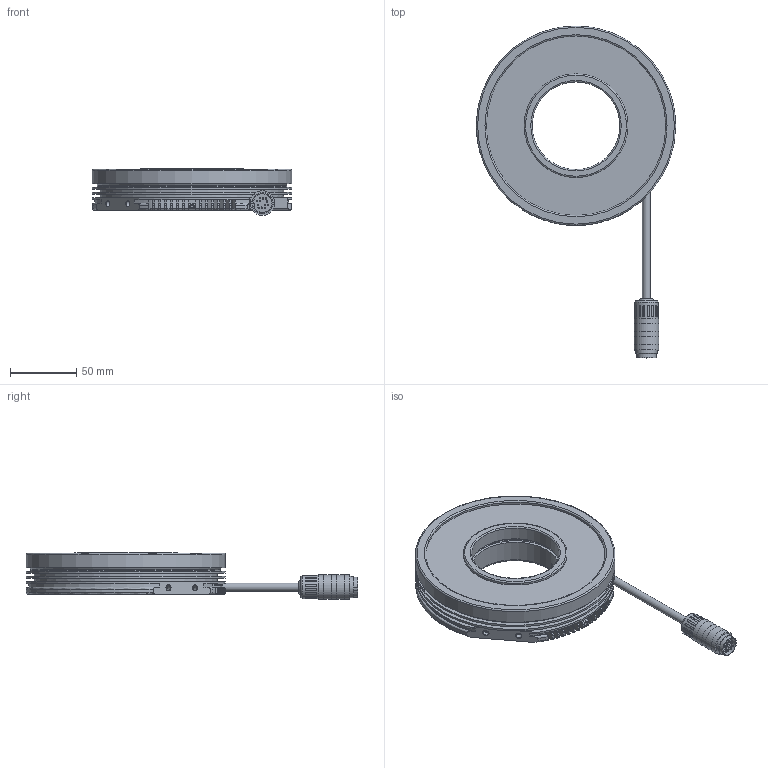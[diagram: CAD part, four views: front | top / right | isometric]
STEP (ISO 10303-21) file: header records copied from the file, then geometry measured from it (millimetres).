
FILE_DESCRIPTION(/* description */ ('Unknown'),/* implementation_level */ '2;1');
FILE_NAME(/* name */ '10X.0087_LRHP66',/* time_stamp */ '2024-02-23T11:36:47+01:00',/* author */ ('AW'),/* organization */ ('iiM AG'),/* preprocessor_version */ 'ST-DEVELOPER v16.7',/* originating_system */ 'DEX',/* authorisation */ $);
FILE_SCHEMA (('CONFIG_CONTROL_DESIGN'));
Length unit declared in the file: millimetre
Products named in the file (1): LRHP66
Bounding box: 150 x 249.66 x 35.29 mm (x, y, z)
Volume: 190728.9 mm3; surface area: 132118.2 mm2
Topology: 3 solids, 3 shells, 611 faces, 1630 edges, 1056 vertices
Faces by surface type: plane 238, cylinder 217, torus 64, cone 60, bspline 19, sphere 13
Full cylindrical faces by diameter (mm): 1 x12, 1.567 x14, 2.013 x4, 2.459 x2, 3.5 x2, 4.134 x20, 6 x1, 6.2 x1, 8 x1, 9 x1, 11 x3, 11.89 x1, 13 x1, 14 x1, 14.5 x1, 15 x1, 16 x1, 17.5 x1, 18.5 x3, 18.6 x2, 66 x2, 69.4 x1, 71 x2, 71.5 x1, 72 x1, 74 x1, 74.6 x1, 75 x1, 78 x2, 135 x1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
Entity records: 26221 total; most frequent: CARTESIAN_POINT 9182, DIRECTION 2831, ORIENTED_EDGE 2646, EDGE_CURVE 1323, AXIS2_PLACEMENT_3D 1134, VERTEX_POINT 959, FACE_BOUND 864, EDGE_LOOP 847
